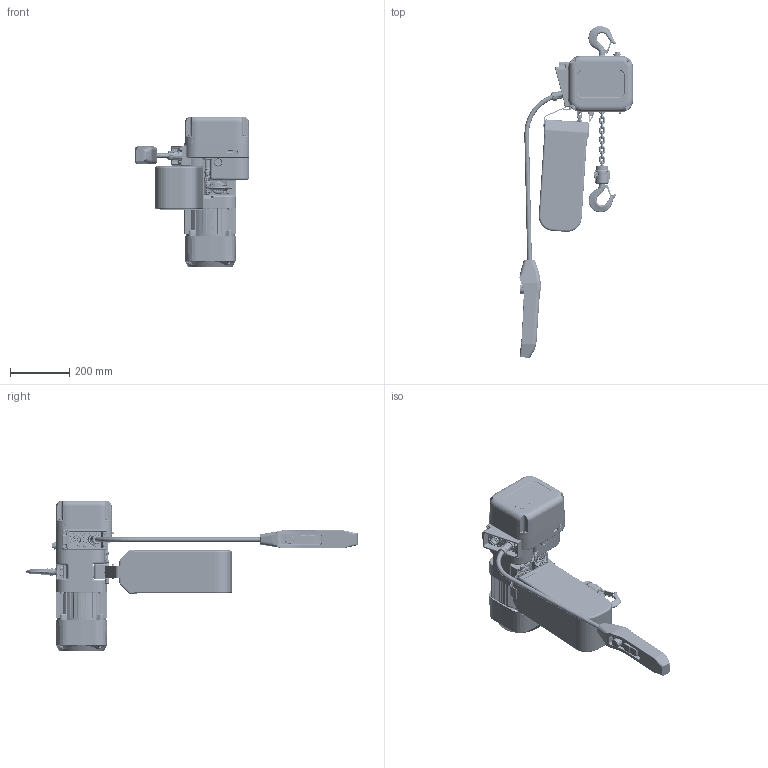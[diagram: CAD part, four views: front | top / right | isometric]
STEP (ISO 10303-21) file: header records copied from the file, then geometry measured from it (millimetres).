
FILE_DESCRIPTION (( 'STEP AP214' ), '1' );
FILE_NAME ('NER2003H.STEP', '2026-08-03T15:40:19', ( '' ), ( '' ), 'SwSTEP 2.0', 'SolidWorks 2026', '' );
FILE_SCHEMA (( 'AUTOMOTIVE_DESIGN' ));
Length unit declared in the file: metre
Products named in the file (59): ER2BHM05S9A5; socket head cap screw_am_B18.3.1M - 6 x 1.0 x 12 Hex SHCS -- 12CHX; ER2CS9107_ER2CS9107; 9091234_B18.3.1M - 5 x 0.8 x 45 Hex SHCS -- 22CHX; ER2CS1001; ER2CS9101; LCER2005NP; 9091283_B18.3.1M - 8 x 1.25 x 75 Hex SHCS -- 65CHX; ER1CS9053; J1NA001-20060_B18.2.4.1M - Hex nut, Style 1,  M6 x 1 --D-C; BK2C2; ECP2304AD; ER2CS9121; J1BY9-0602525_B18.2.3.1M - Hex cap screw, M6 x 1.0 x 25 --25C; ER2BHM03H9A6; ER2CS9331; ER2CS9103; 2 Button Pendant; NER2003H; ES558003; socket head cap screw_am_ER419001; single coil rectangular section spring washer_bsi_Rectangular section spring washer BS 4464 - 16 (Type B); ER2CS9357; ER2CS2564; ER1CS1041; ER1BS9135; ES855003; ER2CS9186; ER2CS9332; 16-8P MR PB_5 ft; ER1BS9535; ER2CS9123; ER2CS9105; J1BG10504022_J1BG10504022; ER2CS1002; ES127005S; E3S112003; ER2CS9338; ER2CH2015; ER2CS9104_ER2CS9104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
Assembly tree (129 placements, depth 5):
  NER2003H
    NER2003H
      ER2CS9104_ER2CS9104
      ER2CS9101
      ER2CS9103
      ER2CS9105
      ER2CS9107_ER2CS9107
      ER2CH1011
        ER2BS9011
        ER2CS1002
        ER2CH2015
          ER2CH9015  x2
          J1BY9-0602525_B18.2.3.1M - Hex cap screw, M6 x 1.0 x 25 --25C  x2
          J1WS011-20060_Rectangular section spring washer BS 4464 - 16 (Type B)  x2
          J1NA001-20060_B18.2.4.1M - Hex nut, Style 1,  M6 x 1 --D-C  x2
      ER2CS1001
        ER2CS9001
        ER2CS1002
      ER2CS9331
      ER2CS9357
      ER2CS9337
      ER2CS9338
      ER2CS9121  x2
      ER1CS1041
      ER2CS9186
      ER2CS9123
      LCER2005NP
        LCER2005NP  x14
      ER2CS9511
      ER2CS2523
      ER2CS2564
      LCER2005NP (SHAPED)
        LCER2005NP  x6
      ER1BS9135
      ES127005S
      E3S111003  x2
      E3S112003  x2
      socket head cap screw_am_B18.3.1M - 6 x 1.0 x 12 Hex SHCS -- 12CHX
      single coil rectangular section spring washer_bsi_Rectangular section spring washer BS 4464 - 16 (Type B)  x4
      9091251_9091251  x4
      9091275_B18.3.1M - 8 x 1.25 x 35 Hex SHCS -- 35CHX  x4
      9091234_B18.3.1M - 5 x 0.8 x 45 Hex SHCS -- 22CHX  x4
      MS561010  x6
      ES558003  x8
      ER2BHM05S9A5
      ER2BHM03H9A6
      ER1BS9535
      M6F554010  x2
      J1BG10504022_J1BG10504022  x4
      ER2CS9332
      ER1CS9053  x2
      LCER2005NP  x15
      ZB20025H5000
        2 Button Pendant
        16-8P MR PB_5 ft
        ECP2304AD
    BK2C2
      ER2DS5403
      9091283_B18.3.1M - 8 x 1.25 x 75 Hex SHCS -- 65CHX
      socket head cap screw_am_ER419001
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Bounding box: 387.31 x 1120.8 x 509.1 mm (x, y, z)
Volume: 11550248.9 mm3; surface area: 1865187.7 mm2
Topology: 140 solids, 140 shells, 6542 faces, 16923 edges, 10695 vertices
Faces by surface type: plane 2641, cylinder 2316, torus 745, cone 405, bspline 372, sphere 63
Entity records: 196603 total; most frequent: CARTESIAN_POINT 64165, ORIENTED_EDGE 26738, DIRECTION 25988, EDGE_CURVE 13369, AXIS2_PLACEMENT_3D 9751, VERTEX_POINT 8585, LINE 6486, VECTOR 6486
